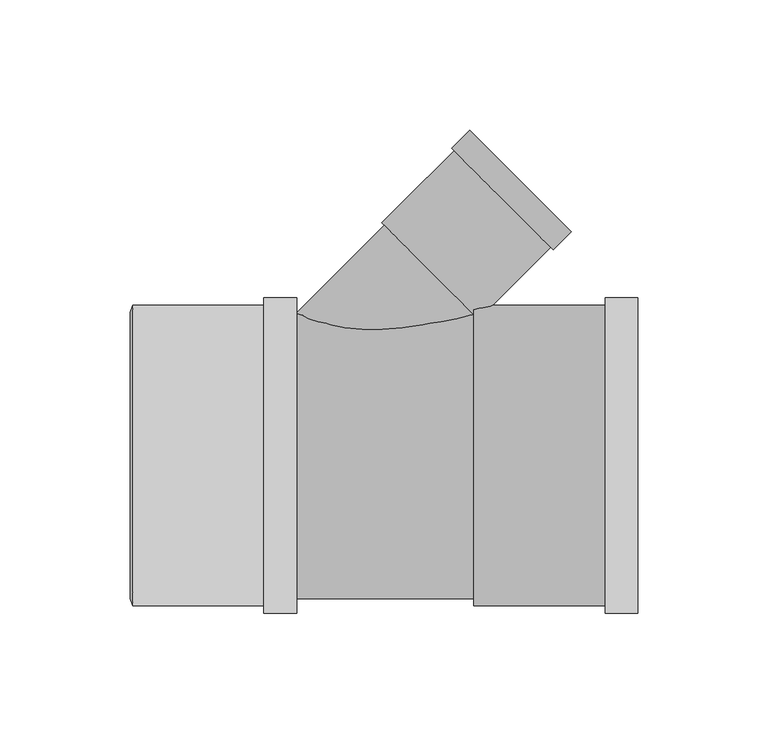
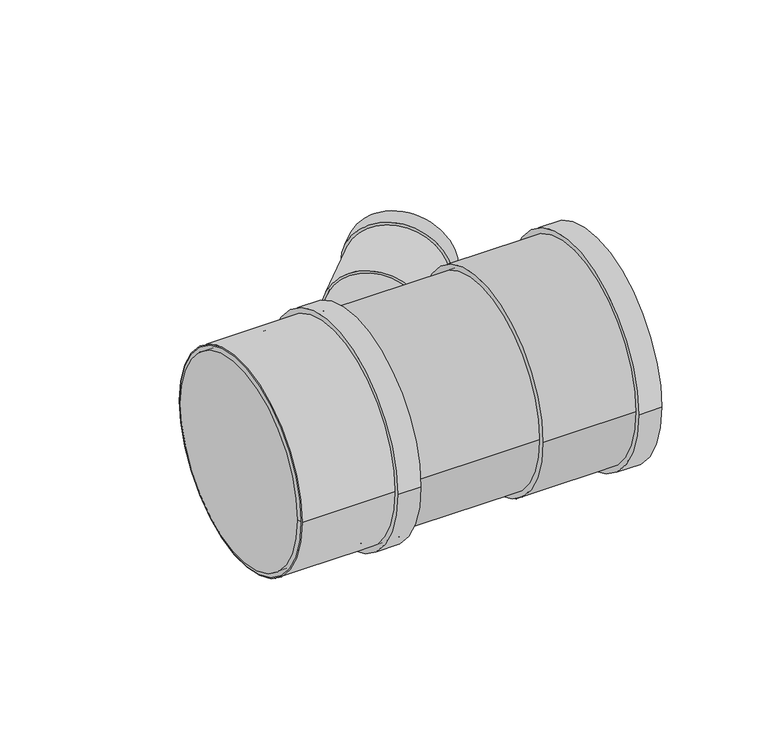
"""IFC4 building model written with IfcOpenShell, lengths in millimetres: pipe fitting geometry, Superdrain HTEA Branch : Superdrain HTEA Branch."""

from ifc_helpers import new_model, si_unit, point, frame, origin, origin_2d, place, context, project, spatial, polyline, circle_curve, trimmed, segment, composite_curve, outline, extrude, source, transform, mapped, element, save
from ifc_brep_helpers import plane_surface, cylinder_surface, revolved_surface, advanced_brep


def pipe_fitting_84de09dd(model_context):
    return source(origin(), model_context, "Body", "SolidModel", [
        extrude(outline(composite_curve([segment(trimmed(circle_curve(origin_2d(), 57.75), [point((57.75, 0.0))], [point((-57.75, 0.0))], False, "CARTESIAN"), True, "CONTINUOUS"), segment(trimmed(circle_curve(origin_2d(), 57.75), [point((-57.75, 0.0))], [point((57.75, 0.0))], False, "CARTESIAN"), True, "CONTINUOUS")], self_intersect=False), holes=[composite_curve([segment(trimmed(circle_curve(origin_2d(), 55.0), [point((55.0, 0.0))], [point((-55.0, 0.0))], True, "CARTESIAN"), True, "CONTINUOUS"), segment(trimmed(circle_curve(origin_2d(), 55.0), [point((-55.0, 0.0))], [point((55.0, 0.0))], True, "CARTESIAN"), True, "CONTINUOUS")], self_intersect=False)]), frame((-43.4, 0.0, 0.0), z_axis=(1.0, 0.0, 0.0), x_axis=(0.0, 1.0, 0.0)), (0.0, 0.0, 1.0), 63.0),
        extrude(outline(composite_curve([segment(trimmed(circle_curve(origin_2d(), 60.6375), [point((60.6375, 0.0))], [point((-60.6375, 0.0))], False, "CARTESIAN"), True, "CONTINUOUS"), segment(trimmed(circle_curve(origin_2d(), 60.6375), [point((-60.6375, 0.0))], [point((60.6375, 0.0))], False, "CARTESIAN"), True, "CONTINUOUS")], self_intersect=False), holes=[composite_curve([segment(trimmed(circle_curve(origin_2d(), 55.0), [point((55.0, 0.0))], [point((-55.0, 0.0))], True, "CARTESIAN"), True, "CONTINUOUS"), segment(trimmed(circle_curve(origin_2d(), 55.0), [point((-55.0, 0.0))], [point((55.0, 0.0))], True, "CARTESIAN"), True, "CONTINUOUS")], self_intersect=False)]), frame((7.0, 0.0, 0.0), z_axis=(1.0, 0.0, 0.0), x_axis=(0.0, 1.0, 0.0)), (0.0, 0.0, 1.0), 12.6),
        advanced_brep(
        [(-44.4, 55.0, 0.0), (-44.4, -55.0, 0.0), (-43.4, 57.75, 0.0), (-43.4, -57.75, 0.0)],
        [
            (0, 1, circle_curve(frame((-44.4, 0.0, 0.0), z_axis=(-1.0, 0.0, 0.0), x_axis=(0.0, 1.0000000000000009, 0.0)), 55.0)),
            (1, 0, circle_curve(frame((-44.4, 0.0, 0.0), z_axis=(-1.0, 0.0, 0.0), x_axis=(0.0, -1.0000000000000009, 0.0)), 55.0)),
            (2, 3, circle_curve(frame((-43.4, 0.0, 0.0), z_axis=(1.0, 0.0, 0.0), x_axis=(0.0, -1.0000000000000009, 0.0)), 57.75)),
            (3, 2, circle_curve(frame((-43.4, 0.0, 0.0), z_axis=(1.0, 0.0, 0.0), x_axis=(0.0, 1.0000000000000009, 0.0)), 57.75)),
            (3, 1),
            (0, 2),
        ],
        [
            plane_surface(frame((-44.4, 0.0, 0.0), z_axis=(-1.0, 0.0, 0.0), x_axis=(0.0, 0.0, -1.0))),
            plane_surface(frame((-43.4, 0.0, 0.0), z_axis=(1.0, 0.0, 0.0), x_axis=(0.0, 0.0, -1.0))),
            revolved_surface(polyline([(-44.4, 55.0, 0.0), (-43.4, 57.75, 0.0)]), (-64.4, 0.0, 0.0), (1.0000000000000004, 0.0, 0.0)),
            revolved_surface(polyline([(-44.4, -55.0, 0.0), (-43.4, -57.75, 0.0)]), (-64.4, 0.0, 0.0), (1.0000000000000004, 0.0, 0.0)),
        ],
        [
            (0, [[1, 2]]),
            (1, [[3, 4]]),
            (2, [[-4, 5, -1, 6]]),
            (3, [[-3, -6, -2, -5]]),
        ],
    ),
        advanced_brep(
        [(87.6, -57.75, 0.0), (87.6, 57.75, 0.0), (150.6, -57.75, 0.0), (150.6, 57.75, 0.0), (150.6, -55.0, 0.0), (150.6, 55.0, 0.0), (88.6, -55.0, 0.0), (88.6, 55.0, 0.0)],
        [
            (0, 1, circle_curve(frame((87.6, 0.0, 0.0), z_axis=(-1.0, 0.0, 0.0), x_axis=(0.0, 1.0, 0.0)), 57.75)),
            (1, 0, circle_curve(frame((87.6, 0.0, 0.0), z_axis=(-1.0, 0.0, 0.0), x_axis=(0.0, 1.0, 0.0)), 57.75)),
            (2, 3, circle_curve(frame((150.6, 0.0, 0.0), z_axis=(1.0, 0.0, 0.0), x_axis=(0.0, 1.0, 0.0)), 57.75)),
            (3, 2, circle_curve(frame((150.6, 0.0, 0.0), z_axis=(1.0, 0.0, 0.0), x_axis=(0.0, 1.0, 0.0)), 57.75)),
            (4, 5, circle_curve(frame((150.6, 0.0, 0.0), z_axis=(-1.0, 0.0, 0.0), x_axis=(0.0, 1.0, 0.0)), 55.0)),
            (5, 4, circle_curve(frame((150.6, 0.0, 0.0), z_axis=(-1.0, 0.0, 0.0), x_axis=(0.0, 1.0, 0.0)), 55.0)),
            (0, 2),
            (3, 1),
            (6, 7, circle_curve(frame((88.6, 0.0, 0.0), z_axis=(-1.0, 0.0, 0.0), x_axis=(0.0, 1.0, 0.0)), 55.0)),
            (7, 5),
            (4, 6),
            (7, 6, circle_curve(frame((88.6, 0.0, 0.0), z_axis=(-1.0, 0.0, 0.0), x_axis=(0.0, 1.0, 0.0)), 55.0)),
        ],
        [
            plane_surface(frame((87.6, 0.0, 0.0), z_axis=(-1.0, 0.0, 0.0), x_axis=(0.0, 0.0, 1.0))),
            plane_surface(frame((150.6, 0.0, 0.0), z_axis=(1.0, 0.0, 0.0), x_axis=(0.0, 0.0, 1.0))),
            cylinder_surface(frame((87.6, 0.0, 0.0), z_axis=(-1.0, 0.0, 0.0), x_axis=(0.0, 1.0, 0.0)), 57.75),
            revolved_surface(polyline([(88.6, 55.0, 0.0), (150.6, 55.0, 0.0)]), (88.6, 0.0, 0.0), (-1.0, 0.0, 0.0)),
            plane_surface(frame((88.6, 0.0, 0.0), z_axis=(1.0, 0.0, 0.0), x_axis=(0.0, 0.0, 1.0))),
        ],
        [
            (0, [[1, 2]]),
            (1, [[3, 4], [5, 6]]),
            (2, [[-1, 7, -4, 8]]),
            (2, [[-2, -8, -3, -7]]),
            (3, [[9, 10, -5, 11]]),
            (3, [[12, -11, -6, -10]]),
            (4, [[-12, -9]]),
        ],
    ),
        extrude(outline(composite_curve([segment(trimmed(circle_curve(origin_2d(), 60.6375), [point((60.6375, 0.0))], [point((-60.6375, 0.0))], False, "CARTESIAN"), True, "CONTINUOUS"), segment(trimmed(circle_curve(origin_2d(), 60.6375), [point((-60.6375, 0.0))], [point((60.6375, 0.0))], False, "CARTESIAN"), True, "CONTINUOUS")], self_intersect=False), holes=[composite_curve([segment(trimmed(circle_curve(origin_2d(), 55.0), [point((55.0, 0.0))], [point((-55.0, 0.0))], True, "CARTESIAN"), True, "CONTINUOUS"), segment(trimmed(circle_curve(origin_2d(), 55.0), [point((-55.0, 0.0))], [point((55.0, 0.0))], True, "CARTESIAN"), True, "CONTINUOUS")], self_intersect=False)]), frame((138.0, 0.0, 0.0), z_axis=(1.0, 0.0, 0.0), x_axis=(0.0, 1.0, 0.0)), (0.0, 0.0, 1.0), 12.6),
        extrude(outline(composite_curve([segment(trimmed(circle_curve(origin_2d(), 25.0), [point((0.0, 25.0))], [point((0.0, -25.0))], False, "CARTESIAN"), True, "CONTINUOUS"), segment(trimmed(circle_curve(origin_2d(), 25.0), [point((0.0, -25.0))], [point((0.0, 25.0))], False, "CARTESIAN"), True, "CONTINUOUS")], self_intersect=False)), frame((0.0, 0.0, 0.0), z_axis=(0.7071067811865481, 0.7071067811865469, 0.0), x_axis=(0.0, 0.0, 1.0)), (0.0, 0.0, 1.0), 100.2),
        extrude(outline(composite_curve([segment(trimmed(circle_curve(origin_2d(), 55.0), [point((55.0, 0.0))], [point((-55.0, 0.0))], False, "CARTESIAN"), True, "CONTINUOUS"), segment(trimmed(circle_curve(origin_2d(), 55.0), [point((-55.0, 0.0))], [point((55.0, 0.0))], False, "CARTESIAN"), True, "CONTINUOUS")], self_intersect=False)), frame((-43.4, 0.0, 0.0), z_axis=(1.0, 0.0, 0.0), x_axis=(0.0, 1.0, 0.0)), (0.0, 0.0, 1.0), 43.4),
        extrude(outline(composite_curve([segment(trimmed(circle_curve(origin_2d(), 55.0), [point((-55.0, 0.0))], [point((55.0, 0.0))], False, "CARTESIAN"), True, "CONTINUOUS"), segment(trimmed(circle_curve(origin_2d(), 55.0), [point((55.0, 0.0))], [point((-55.0, 0.0))], False, "CARTESIAN"), True, "CONTINUOUS")], self_intersect=False)), frame((0.0, 0.0, 0.0), z_axis=(1.0, 0.0, 0.0), x_axis=(0.0, 1.0, 0.0)), (0.0, 0.0, 1.0), 87.6),
        extrude(outline(composite_curve([segment(trimmed(circle_curve(origin_2d(), 27.5625), [point((0.0, 27.5625001))], [point((0.0, -27.5625001))], False, "CARTESIAN"), True, "CONTINUOUS"), segment(trimmed(circle_curve(origin_2d(), 27.5625), [point((0.0, -27.5625001))], [point((0.0, 27.5625001))], False, "CARTESIAN"), True, "CONTINUOUS")], self_intersect=False), holes=[composite_curve([segment(trimmed(circle_curve(origin_2d(), 25.0), [point((0.0, 25.0))], [point((0.0, -25.0))], True, "CARTESIAN"), True, "CONTINUOUS"), segment(trimmed(circle_curve(origin_2d(), 25.0), [point((0.0, -25.0))], [point((0.0, 25.0))], True, "CARTESIAN"), True, "CONTINUOUS")], self_intersect=False)]), frame((98.5706853, 98.5706853, 0.0), z_axis=(0.7071067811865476, 0.7071067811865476, 0.0), x_axis=(0.0, 0.0, 1.0)), (0.0, 0.0, 1.0), 9.8),
        extrude(outline(composite_curve([segment(trimmed(circle_curve(origin_2d(), 26.25), [point((0.0, 26.25))], [point((0.0, -26.25))], False, "CARTESIAN"), True, "CONTINUOUS"), segment(trimmed(circle_curve(origin_2d(), 26.25), [point((0.0, -26.25))], [point((0.0, 26.25))], False, "CARTESIAN"), True, "CONTINUOUS")], self_intersect=False), holes=[composite_curve([segment(trimmed(circle_curve(origin_2d(), 25.0), [point((0.0, 25.0))], [point((0.0, -25.0))], True, "CARTESIAN"), True, "CONTINUOUS"), segment(trimmed(circle_curve(origin_2d(), 25.0), [point((0.0, -25.0))], [point((0.0, 25.0))], True, "CARTESIAN"), True, "CONTINUOUS")], self_intersect=False)]), frame((70.8520995, 70.8520995, 0.0), z_axis=(0.7071067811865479, 0.7071067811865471, 0.0), x_axis=(0.0, 0.0, 1.0)), (0.0, 0.0, 1.0), 49.0),
    ])


if __name__ == "__main__":
    model = new_model("IFC4")
    model_context = context("Model", 3, world=origin())
    ifc_project = project(units=[si_unit("LENGTHUNIT", "METRE", prefix="MILLI")], contexts=[model_context])
    site = spatial("IfcSite", under=ifc_project)
    building = spatial("IfcBuilding", under=site)
    placement = place(None, origin())
    pipe_fitting_shape = pipe_fitting_84de09dd(model_context)
    element("IfcPipeFitting", 1, ObjectType="Superdrain HTEA Branch : Superdrain HTEA Branch", at=placement, inside=building, context=model_context, shape_type="MappedRepresentation", body=[
        mapped(pipe_fitting_shape, transform((0.0, 0.0, 0.0), x_axis=(1.0, 0.0, 0.0), y_axis=(0.0, 1.0, 0.0), z_axis=(0.0, 0.0, 1.0))),
    ])
    save(model, "model.ifc")
